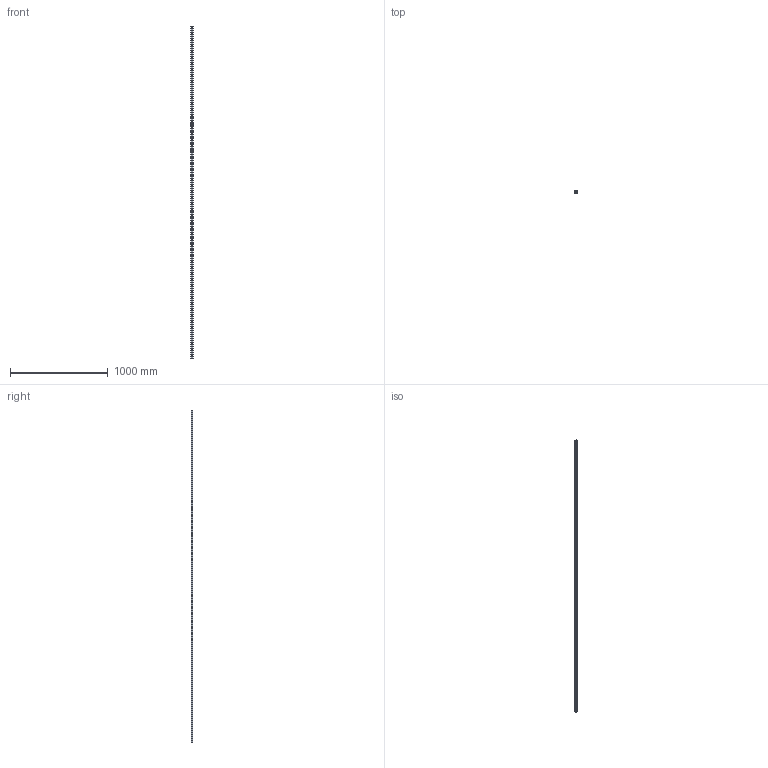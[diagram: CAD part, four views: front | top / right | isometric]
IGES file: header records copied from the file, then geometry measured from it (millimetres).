
Start section: SolidWorks IGES file using analytic representation for surfaces
Global section: file name: C:\Users\IanO\Desktop\L1016_v2\L1016.BL25_v2\L1016.BL25_v2_20160611_IGES\L1016.BL25-3400.igs; native system: SolidWorks 2017; preprocessor: SolidWorks 2017; author: IanO; date: 190612.131516; units: millimetre
Bounding box: 23 x 19.2 x 3400 mm (x, y, z)
Surface area: 321558.2 mm2 (no closed solid volume)
Topology: 0 solids, 0 shells, 311 faces, 8376 edges, 8376 vertices
Faces by surface type: revolution 232, bspline 79
